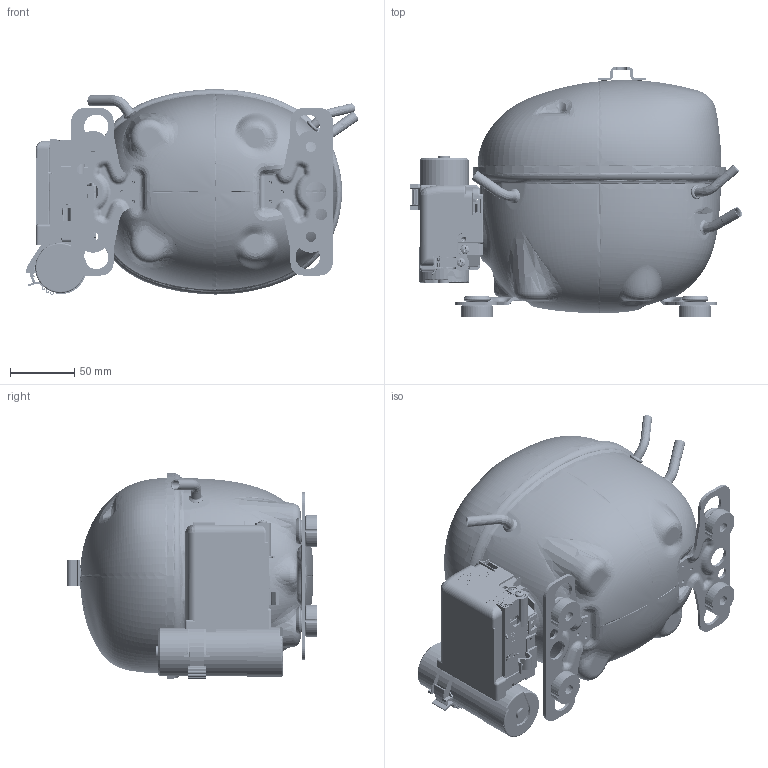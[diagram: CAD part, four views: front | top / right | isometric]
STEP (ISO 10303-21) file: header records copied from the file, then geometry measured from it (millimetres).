
FILE_DESCRIPTION((''),'2;1');
FILE_NAME('106B1204_106B1300_BENT30_ELE_ASM','2024-10-03T11:14:32',('SKHC0530'),(''),'CREO PARAMETRIC BY PTC INC, 2022162','CREO PARAMETRIC BY PTC INC, 2022162','');
FILE_SCHEMA(('CONFIG_CONTROL_DESIGN'));
Products named in the file (27): 106B1400_SHELL_PRESSED; 106B1500_US_EU_FOOT_STRAP; 117-3617_BODY; 117-3617_PINS; 117-3617_GLASS_FUSED; 117-3617_ASM; 10539602_TERMINAL_FENCE; 10919100_SPRING_PIN_FOR_SHELL; 16301000_DISCH_TUBE_BENT_AF0; 106B1803_SUCTION_TUBE_BENT30_AF4; 106B1881_SERVICE_TUBE_BENT35_AF4; 106B1204_BENT30_ASM; 106B1300_KAPPA_COVER; 10538901_KAPPA_BRACKET; 10538901_COVER_WITH_BRACKET_ASM; 106B1204_106B1300_BENT30_ASM; 118-3661; 117U9203; 11341000_CABLE_CLAMP_CLOSED; 117U50XX_START_CAPACITOR_AF3; 103N0535; 117U50XX_K_SERIE_AF2_ASM; 10641201; 10636401_TERM_BOARD_COVER; 10636000; 10636200; 106B1204_106B1300_BENT30_ELE_ASM
Assembly tree (37 placements, depth 5):
  106B1204_106B1300_BENT30_ELE_ASM
    106B1204_106B1300_BENT30_ASM
      106B1204_BENT30_ASM
        106B1400_SHELL_PRESSED
        106B1500_US_EU_FOOT_STRAP  x2
        117-3617_ASM
          117-3617_BODY
          117-3617_PINS  x3
          117-3617_GLASS_FUSED  x3
        10539602_TERMINAL_FENCE
        10919100_SPRING_PIN_FOR_SHELL  x4
        16301000_DISCH_TUBE_BENT_AF0
        106B1803_SUCTION_TUBE_BENT30_AF4
        106B1881_SERVICE_TUBE_BENT35_AF4
      10538901_COVER_WITH_BRACKET_ASM
        106B1300_KAPPA_COVER
        10538901_KAPPA_BRACKET
    118-3661  x4
    117U9203
    11341000_CABLE_CLAMP_CLOSED
    117U50XX_K_SERIE_AF2_ASM
      117U50XX_START_CAPACITOR_AF3
      103N0535
    10641201
    10636401_TERM_BOARD_COVER
    10636000
    10636200
Bounding box: 259.02 x 194.4 x 160.56 mm (x, y, z)
Volume: 620019 mm3; surface area: 383605 mm2
Topology: 33 solids, 48 shells, 6891 faces, 18871 edges, 12036 vertices
Faces by surface type: plane 3907, cylinder 1297, bspline 762, torus 347, cone 288, extrusion 183, sphere 81, revolution 26
Entity records: 665357 total; most frequent: CARTESIAN_POINT 503544, ORIENTED_EDGE 35968, DIRECTION 30053, EDGE_CURVE 17988, VECTOR 12355, LINE 12172, VERTEX_POINT 11564, AXIS2_PLACEMENT_3D 8840
